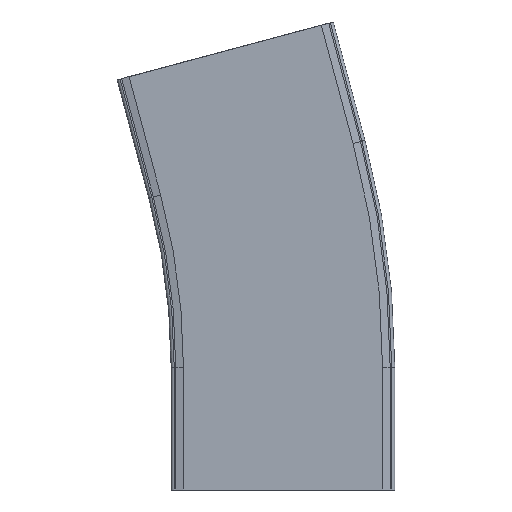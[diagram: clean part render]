
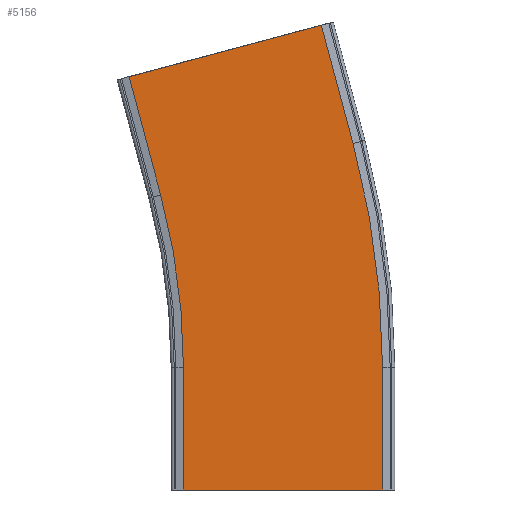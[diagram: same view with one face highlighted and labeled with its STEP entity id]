
A CAD part, front view. The second image highlights one B-rep face of the part: STEP entity #5156.
In plain terms, the highlighted planar face has unit normal (0, -1, 0).
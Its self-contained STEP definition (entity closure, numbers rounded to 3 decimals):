
#4913=CARTESIAN_POINT('',(104.,-74.,0.0));
#4914=VERTEX_POINT('',#4913);
#4921=CARTESIAN_POINT('',(-26.,-74.,0.0));
#4922=VERTEX_POINT('',#4921);
#4923=CARTESIAN_POINT('',(-26.,-74.,0.0));
#4924=DIRECTION('',(1.0,0.0,0.0));
#4925=VECTOR('',#4924,130.);
#4926=LINE('',#4923,#4925);
#4927=EDGE_CURVE('',#4922,#4914,#4926,.T.);
#4982=CARTESIAN_POINT('',(-26.,-74.,80.0));
#4983=VERTEX_POINT('',#4982);
#4992=CARTESIAN_POINT('',(-26.,-74.,0.0));
#4993=DIRECTION('',(0.0,0.0,1.0));
#4994=VECTOR('',#4993,80.0);
#4995=LINE('',#4992,#4994);
#4996=EDGE_CURVE('',#4922,#4983,#4995,.T.);
#5006=CARTESIAN_POINT('',(104.,-74.,80.0));
#5007=VERTEX_POINT('',#5006);
#5016=CARTESIAN_POINT('',(104.,-74.,0.0));
#5017=DIRECTION('',(0.0,0.0,1.0));
#5018=VECTOR('',#5017,80.0);
#5019=LINE('',#5016,#5018);
#5020=EDGE_CURVE('',#4914,#5007,#5019,.T.);
#5039=CARTESIAN_POINT('',(-40.822,-74.,192.586));
#5040=VERTEX_POINT('',#5039);
#5055=CARTESIAN_POINT('',(-461.,-74.,80.0));
#5056=DIRECTION('',(0.0,-1.0,0.0));
#5057=DIRECTION('',(1.0,0.0,0.0));
#5058=AXIS2_PLACEMENT_3D('',#5055,#5056,#5057);
#5059=CIRCLE('',#5058,435.);
#5060=EDGE_CURVE('',#4983,#5040,#5059,.T.);
#5114=CARTESIAN_POINT('',(139.333,-74.,22.519));
#5115=DIRECTION('',(0.0,-1.0,0.0));
#5116=DIRECTION('',(0.259,0.0,-0.966));
#5117=AXIS2_PLACEMENT_3D('',#5114,#5115,#5116);
#5118=PLANE('',#5117);
#5119=CARTESIAN_POINT('',(64.043,-74.,303.507));
#5120=VERTEX_POINT('',#5119);
#5121=CARTESIAN_POINT('',(-61.528,-74.,269.86));
#5122=VERTEX_POINT('',#5121);
#5123=CARTESIAN_POINT('',(64.043,-74.,303.507));
#5124=DIRECTION('',(-0.966,0.,-0.259));
#5125=VECTOR('',#5124,130.);
#5126=LINE('',#5123,#5125);
#5127=EDGE_CURVE('',#5120,#5122,#5126,.T.);
#5128=ORIENTED_EDGE('',*,*,#5127,.T.);
#5129=CARTESIAN_POINT('',(-40.822,-74.,192.586));
#5130=DIRECTION('',(-0.259,0.0,0.966));
#5131=VECTOR('',#5130,80.);
#5132=LINE('',#5129,#5131);
#5133=EDGE_CURVE('',#5040,#5122,#5132,.T.);
#5134=ORIENTED_EDGE('',*,*,#5133,.F.);
#5135=ORIENTED_EDGE('',*,*,#5060,.F.);
#5136=ORIENTED_EDGE('',*,*,#4996,.F.);
#5137=ORIENTED_EDGE('',*,*,#4927,.T.);
#5138=ORIENTED_EDGE('',*,*,#5020,.T.);
#5139=CARTESIAN_POINT('',(84.748,-74.,226.233));
#5140=VERTEX_POINT('',#5139);
#5141=CARTESIAN_POINT('',(-461.,-74.,80.0));
#5142=DIRECTION('',(0.0,-1.0,0.0));
#5143=DIRECTION('',(1.0,0.0,0.0));
#5144=AXIS2_PLACEMENT_3D('',#5141,#5142,#5143);
#5145=CIRCLE('',#5144,565.);
#5146=EDGE_CURVE('',#5007,#5140,#5145,.T.);
#5147=ORIENTED_EDGE('',*,*,#5146,.T.);
#5148=CARTESIAN_POINT('',(84.748,-74.,226.233));
#5149=DIRECTION('',(-0.259,0.0,0.966));
#5150=VECTOR('',#5149,80.);
#5151=LINE('',#5148,#5150);
#5152=EDGE_CURVE('',#5140,#5120,#5151,.T.);
#5153=ORIENTED_EDGE('',*,*,#5152,.T.);
#5154=EDGE_LOOP('',(#5128,#5134,#5135,#5136,#5137,#5138,#5147,#5153));
#5155=FACE_OUTER_BOUND('',#5154,.T.);
#5156=ADVANCED_FACE('',(#5155),#5118,.T.);
